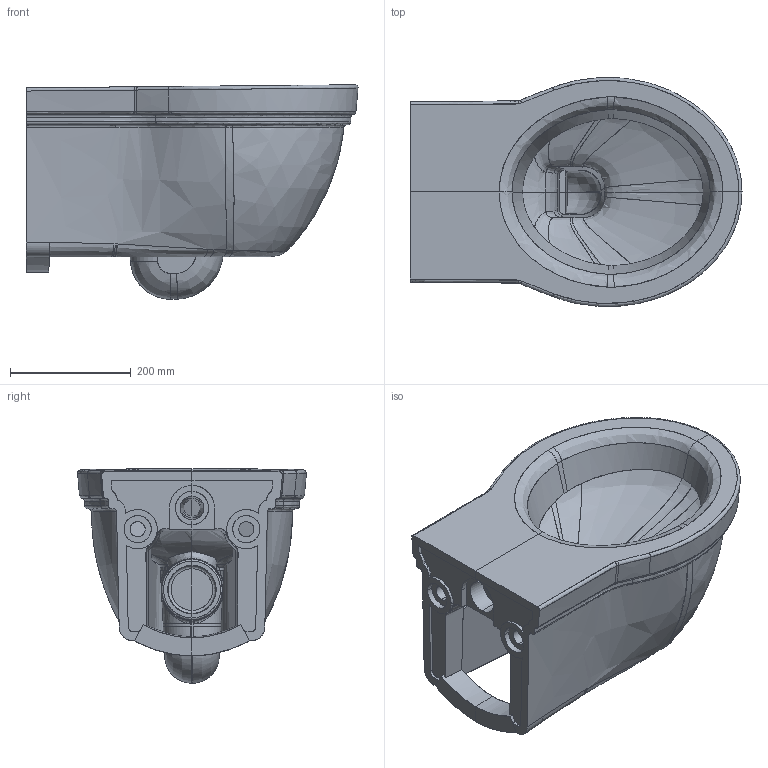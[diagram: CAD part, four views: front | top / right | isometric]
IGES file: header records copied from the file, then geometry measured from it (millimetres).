
Start section: START RECORD GO HERE.
Global section: file name: 8439_VASO ETHOS SOSPESO.igs; native system: DASSAULT SYSTEMES CATIA V5 R19 - www.3ds.com; preprocessor: CATIA Version 5 Release 19 SP 5 ; author: gioge; organization: LAPTOP-G94B6G74; date: 20200630.150725; units: millimetre
Bounding box: 549.52 x 378.63 x 354.97 mm (x, y, z)
Surface area: 1228400.2 mm2 (no closed solid volume)
Topology: 0 solids, 0 shells, 480 faces, 2503 edges, 2482 vertices
Faces by surface type: bspline 366, plane 82, extrusion 30, revolution 2
